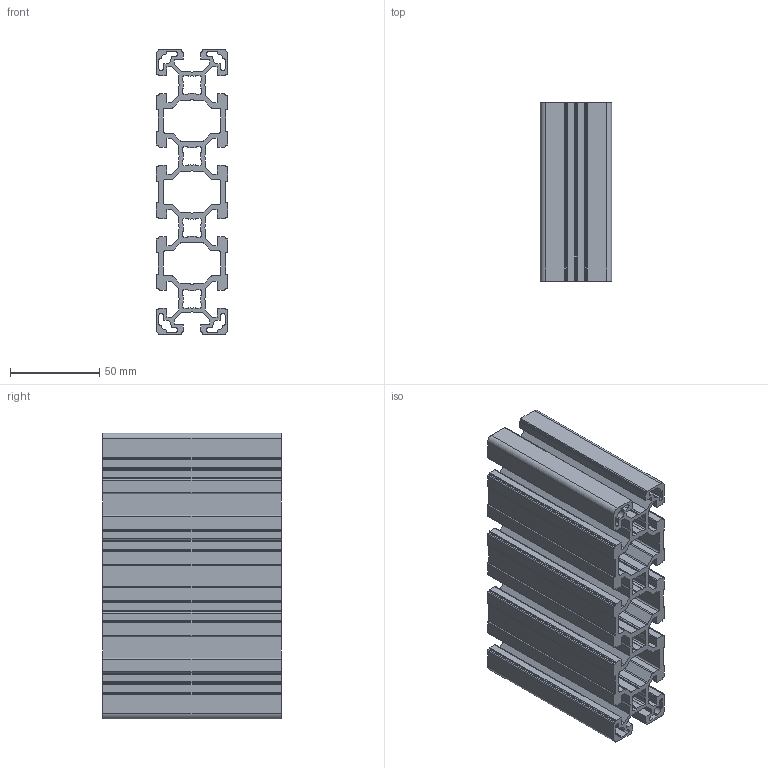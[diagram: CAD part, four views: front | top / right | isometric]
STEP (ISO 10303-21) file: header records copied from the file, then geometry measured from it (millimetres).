
FILE_DESCRIPTION( ( 'Unknown' ), '1' );
FILE_NAME( 'Z:/DBFINAL/Serie1/B-NEU-2018-11-19/B-NEU2019-Entwurf-FINAL/B10-40160L.stp', 'Unknown', ( 'Unknown' ), ( 'Unknown' ), 'XStep 1.0', 'Unknown', ' ' );
FILE_SCHEMA( ( 'automotive_design' ) );
Length unit declared in the file: millimetre
Products named in the file (1): 1
Bounding box: 40 x 100 x 160 mm (x, y, z)
Volume: 211803.9 mm3; surface area: 145954.9 mm2
Topology: 1 solids, 1 shells, 646 faces, 1932 edges, 1288 vertices
Faces by surface type: plane 350, cylinder 296
Entity records: 27096 total; most frequent: CARTESIAN_POINT 3867, ORIENTED_EDGE 3864, DIRECTION 3818, EDGE_CURVE 1932, LINE 1340, VECTOR 1340, VERTEX_POINT 1288, AXIS2_PLACEMENT_3D 1239
